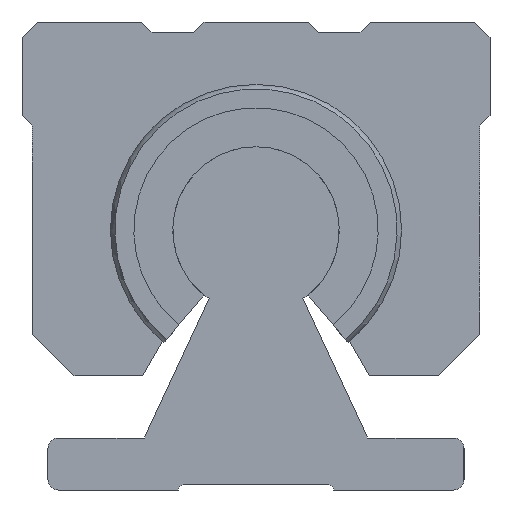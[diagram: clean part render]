
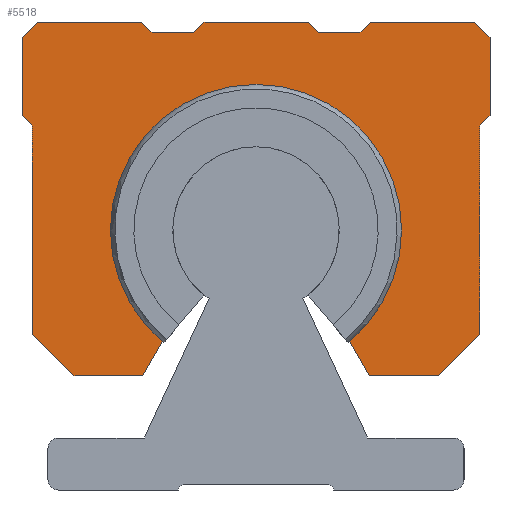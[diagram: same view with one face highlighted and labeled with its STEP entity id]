
A CAD part, left-side view. The second image highlights one B-rep face of the part: STEP entity #5518.
In plain terms, the highlighted planar face has unit normal (-1, 0, 0).
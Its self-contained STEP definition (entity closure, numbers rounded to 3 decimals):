
#4285=CARTESIAN_POINT('',(274.994,-9.0,14.276));
#4286=VERTEX_POINT('',#4285);
#4293=CARTESIAN_POINT('',(274.994,9.,14.276));
#4294=VERTEX_POINT('',#4293);
#4295=CARTESIAN_POINT('',(274.994,0.,25.0));
#4296=DIRECTION('',(-1.0,0.0,0.0));
#4297=DIRECTION('',(0.0,-1.0,0.0));
#4298=AXIS2_PLACEMENT_3D('',#4295,#4296,#4297);
#4299=CIRCLE('',#4298,14.);
#4300=EDGE_CURVE('',#4286,#4294,#4299,.T.);
#4468=CARTESIAN_POINT('',(274.994,-21.5,15.));
#4469=VERTEX_POINT('',#4468);
#4476=CARTESIAN_POINT('',(274.994,-17.5,11.));
#4477=VERTEX_POINT('',#4476);
#4478=CARTESIAN_POINT('',(274.994,-21.5,15.));
#4479=DIRECTION('',(0.0,0.707,-0.707));
#4480=VECTOR('',#4479,5.657);
#4481=LINE('',#4478,#4480);
#4482=EDGE_CURVE('',#4469,#4477,#4481,.T.);
#4507=CARTESIAN_POINT('',(274.994,-21.5,35.0));
#4508=VERTEX_POINT('',#4507);
#4515=CARTESIAN_POINT('',(274.994,-21.5,35.0));
#4516=DIRECTION('',(0.0,0.0,-1.0));
#4517=VECTOR('',#4516,20.);
#4518=LINE('',#4515,#4517);
#4519=EDGE_CURVE('',#4508,#4469,#4518,.T.);
#4705=CARTESIAN_POINT('',(274.994,17.5,11.));
#4706=VERTEX_POINT('',#4705);
#4713=CARTESIAN_POINT('',(274.994,21.5,15.));
#4714=VERTEX_POINT('',#4713);
#4715=CARTESIAN_POINT('',(274.994,17.5,11.));
#4716=DIRECTION('',(0.0,0.707,0.707));
#4717=VECTOR('',#4716,5.657);
#4718=LINE('',#4715,#4717);
#4719=EDGE_CURVE('',#4706,#4714,#4718,.T.);
#4737=CARTESIAN_POINT('',(274.994,10.892,11.));
#4738=VERTEX_POINT('',#4737);
#4745=CARTESIAN_POINT('',(274.994,10.892,11.));
#4746=DIRECTION('',(0.0,1.0,0.0));
#4747=VECTOR('',#4746,6.608);
#4748=LINE('',#4745,#4747);
#4749=EDGE_CURVE('',#4738,#4706,#4748,.T.);
#4759=CARTESIAN_POINT('',(274.994,-5.,45.0));
#4760=VERTEX_POINT('',#4759);
#4761=CARTESIAN_POINT('',(274.994,-6.,44.0));
#4762=VERTEX_POINT('',#4761);
#4763=CARTESIAN_POINT('',(274.994,-5.,45.0));
#4764=DIRECTION('',(0.0,-0.707,-0.707));
#4765=VECTOR('',#4764,1.414);
#4766=LINE('',#4763,#4765);
#4767=EDGE_CURVE('',#4760,#4762,#4766,.T.);
#4791=CARTESIAN_POINT('',(274.994,-10.,44.0));
#4792=VERTEX_POINT('',#4791);
#4793=CARTESIAN_POINT('',(274.994,-6.,44.0));
#4794=DIRECTION('',(0.0,-1.0,0.0));
#4795=VECTOR('',#4794,4.);
#4796=LINE('',#4793,#4795);
#4797=EDGE_CURVE('',#4762,#4792,#4796,.T.);
#4814=CARTESIAN_POINT('',(274.994,11.,45.0));
#4815=VERTEX_POINT('',#4814);
#4816=CARTESIAN_POINT('',(274.994,10.,44.0));
#4817=VERTEX_POINT('',#4816);
#4818=CARTESIAN_POINT('',(274.994,11.,45.0));
#4819=DIRECTION('',(0.0,-0.707,-0.707));
#4820=VECTOR('',#4819,1.414);
#4821=LINE('',#4818,#4820);
#4822=EDGE_CURVE('',#4815,#4817,#4821,.T.);
#4846=CARTESIAN_POINT('',(274.994,6.,44.0));
#4847=VERTEX_POINT('',#4846);
#4848=CARTESIAN_POINT('',(274.994,10.,44.0));
#4849=DIRECTION('',(0.0,-1.0,0.0));
#4850=VECTOR('',#4849,4.);
#4851=LINE('',#4848,#4850);
#4852=EDGE_CURVE('',#4817,#4847,#4851,.T.);
#4869=CARTESIAN_POINT('',(274.994,5.,45.0));
#4870=VERTEX_POINT('',#4869);
#4871=CARTESIAN_POINT('',(274.994,6.,44.0));
#4872=DIRECTION('',(0.0,-0.707,0.707));
#4873=VECTOR('',#4872,1.414);
#4874=LINE('',#4871,#4873);
#4875=EDGE_CURVE('',#4847,#4870,#4874,.T.);
#4893=CARTESIAN_POINT('',(274.994,-11.,45.0));
#4894=VERTEX_POINT('',#4893);
#4895=CARTESIAN_POINT('',(274.994,-10.,44.0));
#4896=DIRECTION('',(0.0,-0.707,0.707));
#4897=VECTOR('',#4896,1.414);
#4898=LINE('',#4895,#4897);
#4899=EDGE_CURVE('',#4792,#4894,#4898,.T.);
#4917=CARTESIAN_POINT('',(274.994,21.5,35.0));
#4918=VERTEX_POINT('',#4917);
#4919=CARTESIAN_POINT('',(274.994,22.5,36.0));
#4920=VERTEX_POINT('',#4919);
#4921=CARTESIAN_POINT('',(274.994,21.5,35.0));
#4922=DIRECTION('',(0.0,0.707,0.707));
#4923=VECTOR('',#4922,1.414);
#4924=LINE('',#4921,#4923);
#4925=EDGE_CURVE('',#4918,#4920,#4924,.T.);
#4948=CARTESIAN_POINT('',(274.994,-22.5,36.0));
#4949=VERTEX_POINT('',#4948);
#4950=CARTESIAN_POINT('',(274.994,-22.5,36.0));
#4951=DIRECTION('',(0.0,0.707,-0.707));
#4952=VECTOR('',#4951,1.414);
#4953=LINE('',#4950,#4952);
#4954=EDGE_CURVE('',#4949,#4508,#4953,.T.);
#4973=CARTESIAN_POINT('',(274.994,22.5,43.5));
#4974=VERTEX_POINT('',#4973);
#4981=CARTESIAN_POINT('',(274.994,21.,45.0));
#4982=VERTEX_POINT('',#4981);
#4983=CARTESIAN_POINT('',(274.994,22.5,43.5));
#4984=DIRECTION('',(0.0,-0.707,0.707));
#4985=VECTOR('',#4984,2.121);
#4986=LINE('',#4983,#4985);
#4987=EDGE_CURVE('',#4974,#4982,#4986,.T.);
#5006=CARTESIAN_POINT('',(274.994,22.5,36.0));
#5007=DIRECTION('',(0.0,0.0,1.0));
#5008=VECTOR('',#5007,7.5);
#5009=LINE('',#5006,#5008);
#5010=EDGE_CURVE('',#4920,#4974,#5009,.T.);
#5021=CARTESIAN_POINT('',(274.994,-21.,45.0));
#5022=VERTEX_POINT('',#5021);
#5029=CARTESIAN_POINT('',(274.994,-22.5,43.5));
#5030=VERTEX_POINT('',#5029);
#5031=CARTESIAN_POINT('',(274.994,-21.,45.0));
#5032=DIRECTION('',(0.0,-0.707,-0.707));
#5033=VECTOR('',#5032,2.121);
#5034=LINE('',#5031,#5033);
#5035=EDGE_CURVE('',#5022,#5030,#5034,.T.);
#5054=CARTESIAN_POINT('',(274.994,-11.,45.0));
#5055=DIRECTION('',(0.0,-1.0,0.0));
#5056=VECTOR('',#5055,10.);
#5057=LINE('',#5054,#5056);
#5058=EDGE_CURVE('',#4894,#5022,#5057,.T.);
#5391=CARTESIAN_POINT('',(274.994,21.5,15.));
#5392=DIRECTION('',(0.0,0.0,1.0));
#5393=VECTOR('',#5392,20.);
#5394=LINE('',#5391,#5393);
#5395=EDGE_CURVE('',#4714,#4918,#5394,.T.);
#5415=CARTESIAN_POINT('',(274.994,9.,14.276));
#5416=DIRECTION('',(0.0,0.5,-0.866));
#5417=VECTOR('',#5416,3.783);
#5418=LINE('',#5415,#5417);
#5419=EDGE_CURVE('',#4294,#4738,#5418,.T.);
#5431=CARTESIAN_POINT('',(274.994,-10.892,11.));
#5432=VERTEX_POINT('',#5431);
#5439=CARTESIAN_POINT('',(274.994,-10.892,11.));
#5440=DIRECTION('',(0.0,0.5,0.866));
#5441=VECTOR('',#5440,3.783);
#5442=LINE('',#5439,#5441);
#5443=EDGE_CURVE('',#5432,#4286,#5442,.T.);
#5461=CARTESIAN_POINT('',(274.994,-17.5,11.));
#5462=DIRECTION('',(0.0,1.0,0.0));
#5463=VECTOR('',#5462,6.608);
#5464=LINE('',#5461,#5463);
#5465=EDGE_CURVE('',#4477,#5432,#5464,.T.);
#5472=CARTESIAN_POINT('',(274.994,0.,28.85));
#5473=DIRECTION('',(1.0,0.0,0.0));
#5474=DIRECTION('',(0.0,0.0,-1.0));
#5475=AXIS2_PLACEMENT_3D('',#5472,#5473,#5474);
#5476=PLANE('',#5475);
#5477=ORIENTED_EDGE('',*,*,#4482,.F.);
#5478=ORIENTED_EDGE('',*,*,#4519,.F.);
#5479=ORIENTED_EDGE('',*,*,#4954,.F.);
#5480=CARTESIAN_POINT('',(274.994,-22.5,43.5));
#5481=DIRECTION('',(0.0,0.0,-1.0));
#5482=VECTOR('',#5481,7.5);
#5483=LINE('',#5480,#5482);
#5484=EDGE_CURVE('',#5030,#4949,#5483,.T.);
#5485=ORIENTED_EDGE('',*,*,#5484,.F.);
#5486=ORIENTED_EDGE('',*,*,#5035,.F.);
#5487=ORIENTED_EDGE('',*,*,#5058,.F.);
#5488=ORIENTED_EDGE('',*,*,#4899,.F.);
#5489=ORIENTED_EDGE('',*,*,#4797,.F.);
#5490=ORIENTED_EDGE('',*,*,#4767,.F.);
#5491=CARTESIAN_POINT('',(274.994,5.,45.0));
#5492=DIRECTION('',(0.0,-1.0,0.0));
#5493=VECTOR('',#5492,10.0);
#5494=LINE('',#5491,#5493);
#5495=EDGE_CURVE('',#4870,#4760,#5494,.T.);
#5496=ORIENTED_EDGE('',*,*,#5495,.F.);
#5497=ORIENTED_EDGE('',*,*,#4875,.F.);
#5498=ORIENTED_EDGE('',*,*,#4852,.F.);
#5499=ORIENTED_EDGE('',*,*,#4822,.F.);
#5500=CARTESIAN_POINT('',(274.994,21.,45.0));
#5501=DIRECTION('',(0.0,-1.0,0.0));
#5502=VECTOR('',#5501,10.);
#5503=LINE('',#5500,#5502);
#5504=EDGE_CURVE('',#4982,#4815,#5503,.T.);
#5505=ORIENTED_EDGE('',*,*,#5504,.F.);
#5506=ORIENTED_EDGE('',*,*,#4987,.F.);
#5507=ORIENTED_EDGE('',*,*,#5010,.F.);
#5508=ORIENTED_EDGE('',*,*,#4925,.F.);
#5509=ORIENTED_EDGE('',*,*,#5395,.F.);
#5510=ORIENTED_EDGE('',*,*,#4719,.F.);
#5511=ORIENTED_EDGE('',*,*,#4749,.F.);
#5512=ORIENTED_EDGE('',*,*,#5419,.F.);
#5513=ORIENTED_EDGE('',*,*,#4300,.F.);
#5514=ORIENTED_EDGE('',*,*,#5443,.F.);
#5515=ORIENTED_EDGE('',*,*,#5465,.F.);
#5516=EDGE_LOOP('',(#5477,#5478,#5479,#5485,#5486,#5487,#5488,#5489,#5490,#5496,#5497,#5498,#5499,#5505,#5506,#5507,#5508,#5509,#5510,#5511,#5512,#5513,#5514,#5515));
#5517=FACE_OUTER_BOUND('',#5516,.T.);
#5518=ADVANCED_FACE('',(#5517),#5476,.F.);
